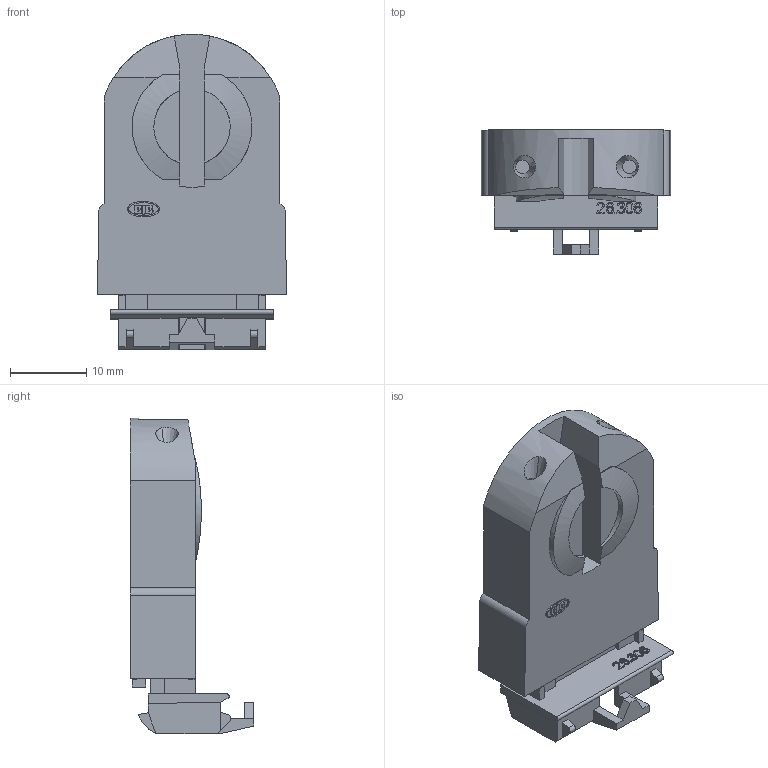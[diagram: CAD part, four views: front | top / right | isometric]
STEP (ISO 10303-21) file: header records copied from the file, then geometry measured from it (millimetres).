
FILE_DESCRIPTION((' '),'1');
FILE_NAME('00TYW09Y05.stp','2006-06-14 T',(' '),(' '),'STEP Interface v1.0 by CT CoreTechnologie','3D_Evolution v1.0 by CT CoreTechnologie',' ');
FILE_SCHEMA(('CONFIG_CONTROL_DESIGN'));
Length unit declared in the file: millimetre
Products named in the file (1): 00TYW09Y05
Bounding box: 24.8 x 16.21 x 41.32 mm (x, y, z)
Volume: 5997.2 mm3; surface area: 5212.5 mm2
Topology: 2 solids, 2 shells, 339 faces, 937 edges, 620 vertices
Faces by surface type: plane 221, cylinder 97, cone 12, bspline 8, sphere 1
Entity records: 14652 total; most frequent: CARTESIAN_POINT 3153, ORIENTED_EDGE 1874, DIRECTION 1761, EDGE_CURVE 937, VECTOR 693, LINE 693, VERTEX_POINT 620, AXIS2_PLACEMENT_3D 534
